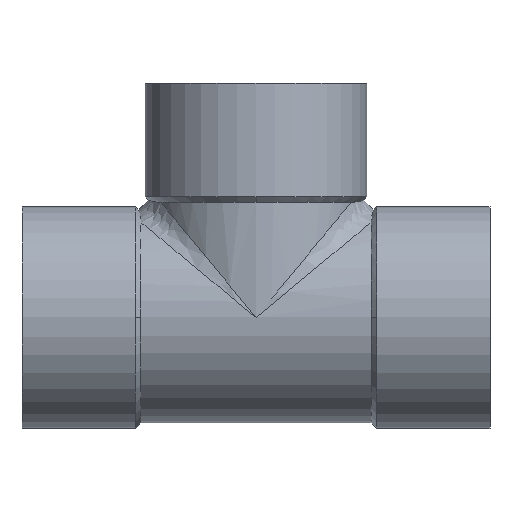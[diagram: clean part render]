
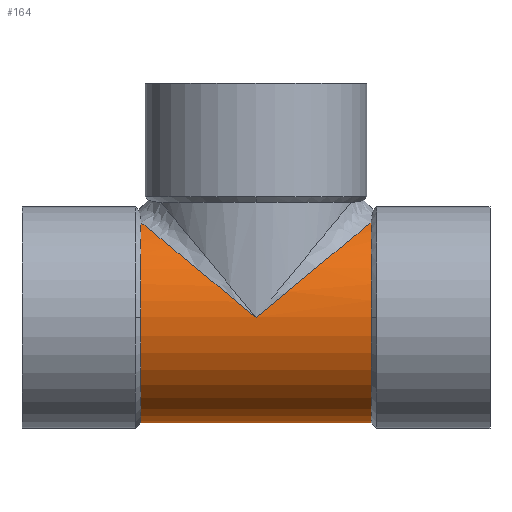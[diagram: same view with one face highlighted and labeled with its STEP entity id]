
A CAD part, top view. The second image highlights one B-rep face of the part: STEP entity #164.
In plain terms, the highlighted cylindrical face has radius 33.4 mm (diameter 66.8 mm), a partial arc.
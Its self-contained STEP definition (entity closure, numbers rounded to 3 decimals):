
#95=CARTESIAN_POINT('',(0.0,0.,0.0));
#96=DIRECTION('',(1.0,0.,0.0));
#97=DIRECTION('',(0.0,1.0,0.0));
#98=AXIS2_PLACEMENT_3D('',#95,#96,#97);
#99=CYLINDRICAL_SURFACE('',#98,33.4);
#100=CARTESIAN_POINT('',(36.5,-33.4,0.));
#101=VERTEX_POINT('',#100);
#102=CARTESIAN_POINT('',(-36.5,-33.4,0.));
#103=VERTEX_POINT('',#102);
#104=CARTESIAN_POINT('',(36.5,-33.4,0.));
#105=DIRECTION('',(-1.0,0.0,0.0));
#106=VECTOR('',#105,73.0);
#107=LINE('',#104,#106);
#108=EDGE_CURVE('',#101,#103,#107,.T.);
#109=ORIENTED_EDGE('',*,*,#108,.F.);
#110=CARTESIAN_POINT('',(36.5,0.,33.4));
#111=VERTEX_POINT('',#110);
#112=CARTESIAN_POINT('',(36.5,0.,0.0));
#113=DIRECTION('',(-1.0,0.0,0.0));
#114=DIRECTION('',(0.0,1.0,0.0));
#115=AXIS2_PLACEMENT_3D('',#112,#113,#114);
#116=CIRCLE('',#115,33.4);
#117=EDGE_CURVE('',#101,#111,#116,.T.);
#118=ORIENTED_EDGE('',*,*,#117,.T.);
#119=CARTESIAN_POINT('',(36.5,30.176,14.317));
#120=VERTEX_POINT('',#119);
#121=CARTESIAN_POINT('',(36.5,0.,0.0));
#122=DIRECTION('',(-1.0,0.0,0.0));
#123=DIRECTION('',(0.0,1.0,0.0));
#124=AXIS2_PLACEMENT_3D('',#121,#122,#123);
#125=CIRCLE('',#124,33.4);
#126=EDGE_CURVE('',#111,#120,#125,.T.);
#127=ORIENTED_EDGE('',*,*,#126,.T.);
#128=CARTESIAN_POINT('',(0.,0.,33.4));
#129=VERTEX_POINT('',#128);
#130=CARTESIAN_POINT('',(0.0,0.,0.0));
#131=DIRECTION('',(-0.637,0.771,0.));
#132=DIRECTION('',(0.771,0.637,0.0));
#133=AXIS2_PLACEMENT_3D('',#130,#131,#132);
#134=ELLIPSE('',#133,52.419,33.4);
#135=EDGE_CURVE('',#129,#120,#134,.T.);
#136=ORIENTED_EDGE('',*,*,#135,.F.);
#137=CARTESIAN_POINT('',(-36.5,30.176,14.317));
#138=VERTEX_POINT('',#137);
#139=CARTESIAN_POINT('',(0.0,0.,0.0));
#140=DIRECTION('',(0.637,0.771,0.));
#141=DIRECTION('',(-0.771,0.637,0.0));
#142=AXIS2_PLACEMENT_3D('',#139,#140,#141);
#143=ELLIPSE('',#142,52.419,33.4);
#144=EDGE_CURVE('',#138,#129,#143,.T.);
#145=ORIENTED_EDGE('',*,*,#144,.F.);
#146=CARTESIAN_POINT('',(-36.5,0.,33.4));
#147=VERTEX_POINT('',#146);
#148=CARTESIAN_POINT('',(-36.5,0.,0.0));
#149=DIRECTION('',(1.0,0.0,0.0));
#150=DIRECTION('',(0.0,1.0,0.0));
#151=AXIS2_PLACEMENT_3D('',#148,#149,#150);
#152=CIRCLE('',#151,33.4);
#153=EDGE_CURVE('',#138,#147,#152,.T.);
#154=ORIENTED_EDGE('',*,*,#153,.T.);
#155=CARTESIAN_POINT('',(-36.5,0.,0.0));
#156=DIRECTION('',(1.0,0.0,0.0));
#157=DIRECTION('',(0.0,1.0,0.0));
#158=AXIS2_PLACEMENT_3D('',#155,#156,#157);
#159=CIRCLE('',#158,33.4);
#160=EDGE_CURVE('',#147,#103,#159,.T.);
#161=ORIENTED_EDGE('',*,*,#160,.T.);
#162=EDGE_LOOP('',(#109,#118,#127,#136,#145,#154,#161));
#163=FACE_OUTER_BOUND('',#162,.T.);
#164=ADVANCED_FACE('',(#163),#99,.T.);
